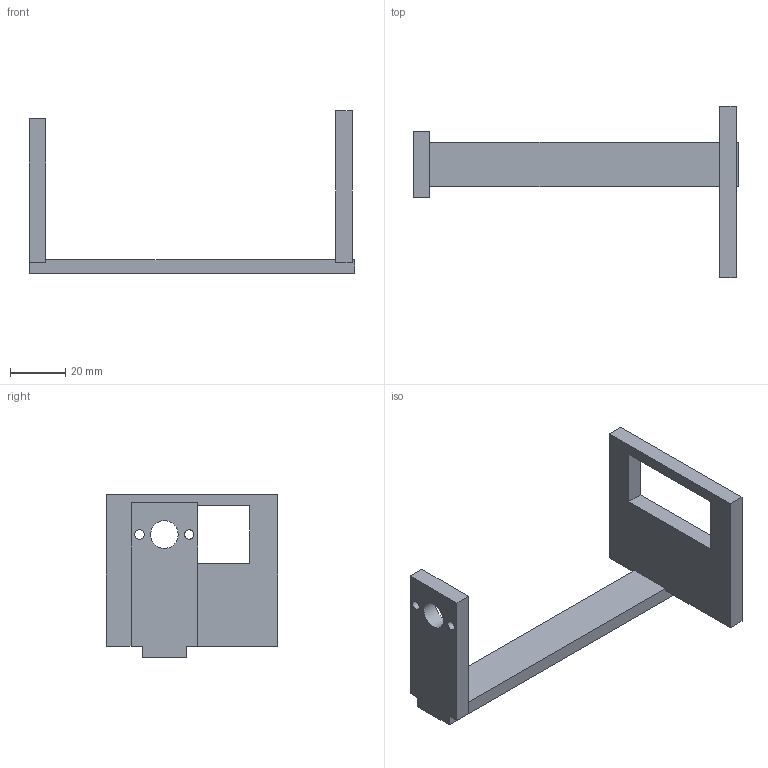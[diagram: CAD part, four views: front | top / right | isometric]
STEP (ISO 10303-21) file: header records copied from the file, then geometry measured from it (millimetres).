
FILE_DESCRIPTION(('Open CASCADE Model'),'2;1');
FILE_NAME('Open CASCADE Shape Model','2026-11-24T19:57:40',('Author'),( 'Open CASCADE'),'Open CASCADE STEP processor 7.8','Open CASCADE 7.8' ,'Unknown');
FILE_SCHEMA(('AUTOMOTIVE_DESIGN { 1 0 10303 214 1 1 1 1 }'));
Length unit declared in the file: millimetre
Products named in the file (1): Open CASCADE STEP translator 7.8 138
Bounding box: 118 x 62 x 59 mm (x, y, z)
Volume: 31323.8 mm3; surface area: 15391.3 mm2
Topology: 1 solids, 1 shells, 27 faces, 75 edges, 50 vertices
Faces by surface type: plane 24, cylinder 3
Full cylindrical faces by diameter (mm): 3.4 x2, 10 x1
Entity records: 1853 total; most frequent: CARTESIAN_POINT 306, DIRECTION 284, LINE 210, VECTOR 210, ORIENTED_EDGE 150, PCURVE 150, DEFINITIONAL_REPRESENTATION 150, EDGE_CURVE 75
